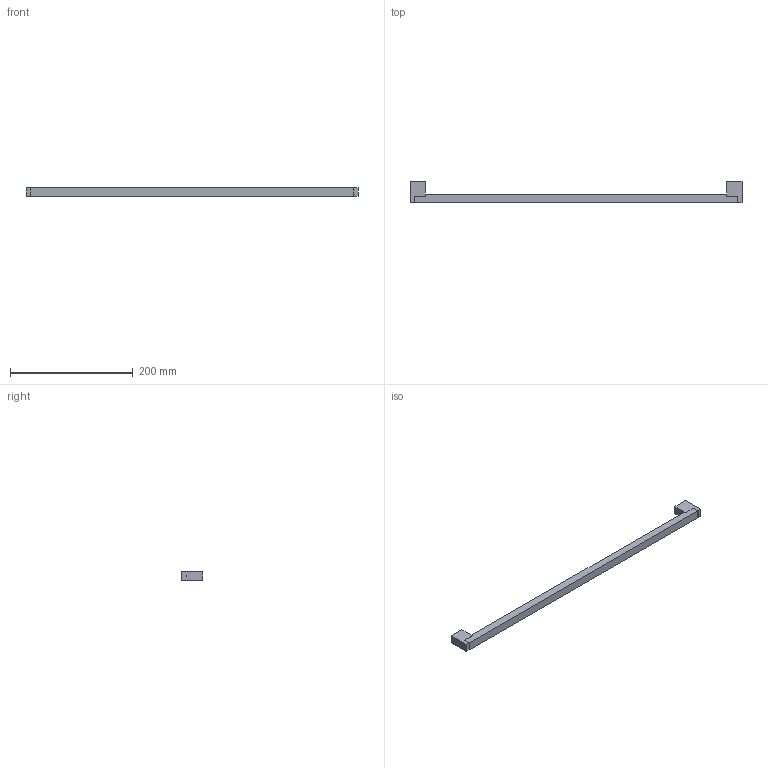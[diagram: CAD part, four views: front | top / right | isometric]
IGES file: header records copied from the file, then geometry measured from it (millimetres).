
Start section: Data from Parasolid IGES Translator 15.0.47, Copyright(c) 2006 Siemens P LM Software. All Rights Reserved.
Global section: file name: 9071753.igs; native system:  By UGS Corp.; preprocessor: XPlus GENERIC/IGES 3.0; author: Noname; organization: Noname; date: 20140122.182002; units: millimetre
Bounding box: 540 x 35 x 14 mm (x, y, z)
Surface area: 33217.4 mm2 (no closed solid volume)
Topology: 0 solids, 0 shells, 42 faces, 228 edges, 226 vertices
Faces by surface type: extrusion 40, revolution 2
